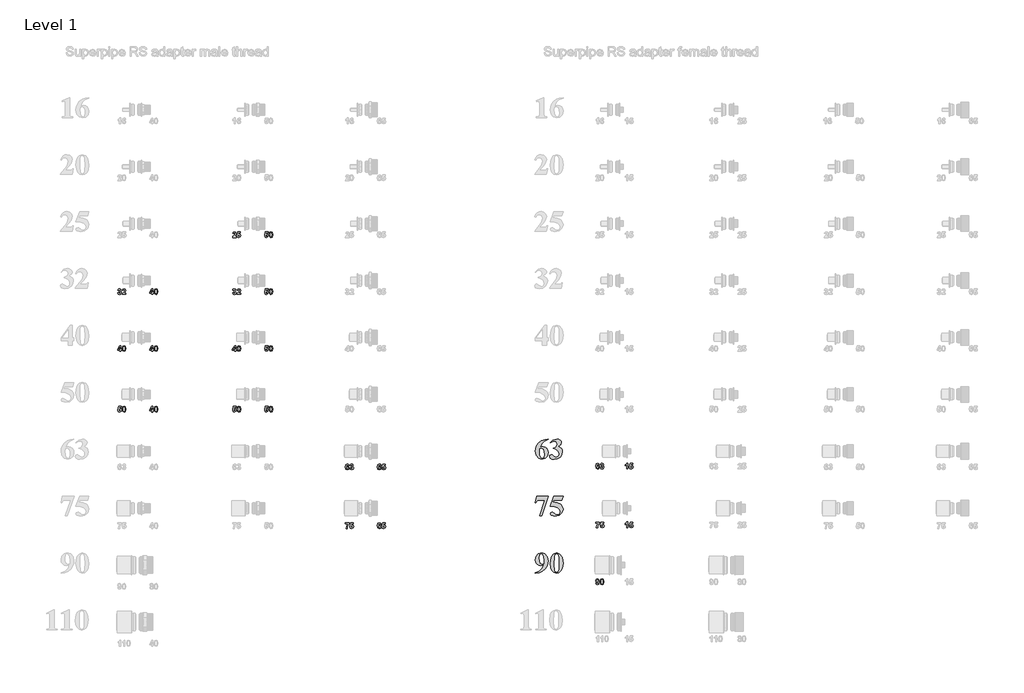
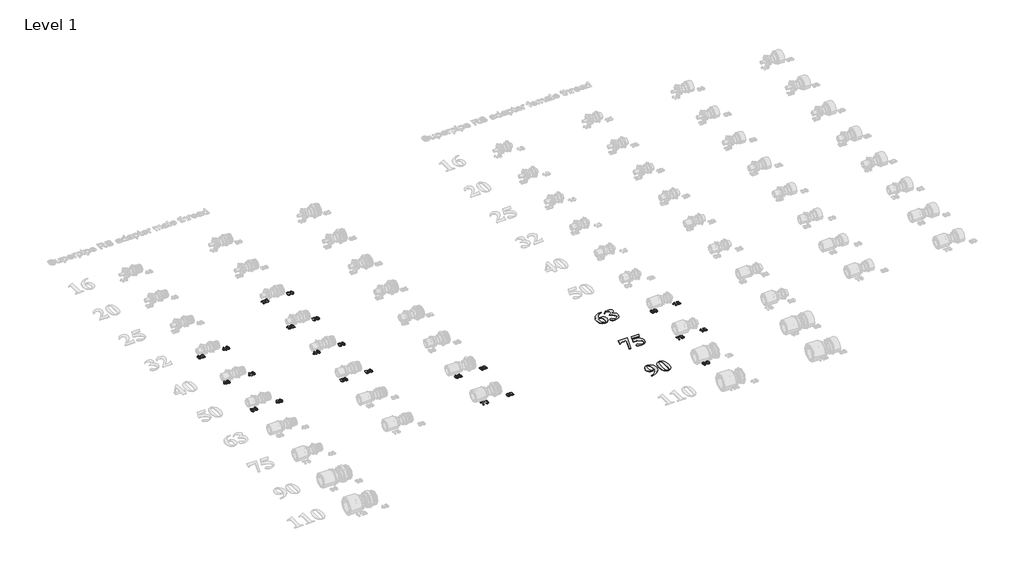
# One storey, part 33 of 57: 26 proxies.
"""IFC4 building model written with IfcOpenShell, lengths in millimetres."""

from ifc_helpers import new_model, si_unit, frame, origin, place, context, project, spatial, polyline, outline, extrude, element, save

model = new_model("IFC4")

# Units and contexts
model_context = context("Model", 3, world=origin())
ifc_project = project(units=[si_unit("LENGTHUNIT", "METRE", prefix="MILLI")], contexts=[model_context])

# Site, building, storey
site = spatial("IfcSite", under=ifc_project)
building = spatial("IfcBuilding", under=site)
storey = spatial("IfcBuildingStorey", under=building, Name="Level 1", Elevation=27.3876384)

# Proxies
placement = place(None, origin())
element("IfcBuildingElementProxy", 1, Name="100mm Arial", ObjectType="100mm Arial", at=placement, inside=storey, context=model_context, shape_type="SweptSolid", body=[
    extrude(outline(polyline([(31351.4898622, 16910.8916255), (31351.4898622, 16909.1466992), (31329.4738, 16900.0676296), (31316.3595883, 16886.5717153), (31308.9027549, 16866.91403), (31314.4647074, 16869.4496261), (31324.4435047, 16870.7583208), (31335.0664251, 16868.7032611), (31343.760384, 16862.5380821), (31349.5574926, 16852.8285215), (31351.4898622, 16840.1403172), (31347.2502366, 16821.8458556), (31335.2266039, 16808.9906565), (31318.5816429, 16804.4511217), (31300.7779418, 16809.6313716), (31288.0181683, 16824.804051), (31283.4377368, 16846.520204), (31285.5405093, 16863.1481247), (31291.8488268, 16878.5150634), (31302.0252915, 16891.7519652), (31315.7325054, 16901.989775), (31332.4081389, 16908.5843694), (31351.4898622, 16910.8916255)]), holes=[polyline([(31307.8667049, 16861.2975485), (31306.1217786, 16846.1112369), (31308.3165687, 16826.0582168), (31314.3283851, 16812.4668768), (31320.7900652, 16809.6859006), (31327.5652869, 16813.7074104), (31330.5507467, 16830.0524621), (31329.2284197, 16847.5698862), (31325.2614389, 16858.6801591), (31316.0733113, 16863.7786156), (31307.8667049, 16861.2975485)])]), frame((0.0, 0.0, 27.3876384), z_axis=(0.0, 0.0, 1.0), x_axis=(1.0, 0.0, 0.0)), (0.0, 0.0, 1.0), 2.0),
    extrude(outline(polyline([(31377.6637566, 16862.0336893), (31377.6637566, 16863.7786156), (31390.0963564, 16868.5907951), (31396.0809083, 16875.379649), (31398.6028721, 16884.6359377), (31393.8997504, 16895.773475), (31382.1896591, 16900.4220677), (31372.1290685, 16897.9887135), (31363.7043462, 16890.6886508), (31361.9594199, 16891.6974363), (31376.3686941, 16906.0794459), (31395.9582182, 16910.8916255), (31406.0085846, 16909.4397923), (31414.1299896, 16905.0842927), (31419.4976828, 16898.7861993), (31421.2869139, 16891.506585), (31417.2790363, 16881.7322713), (31404.7101141, 16873.4575036), (31420.9324757, 16862.1700117), (31425.1243885, 16854.6109365), (31426.5216927, 16845.3478316), (31423.5294168, 16829.585558), (31414.552589, 16816.3793288), (31400.5522819, 16807.4331734), (31382.4895683, 16804.4511217), (31370.8885349, 16805.7325519), (31362.9136765, 16809.5768427), (31358.4695674, 16818.8740281), (31361.0460601, 16825.9491589), (31367.0033475, 16828.8800898), (31371.8564237, 16827.7895108), (31380.7173776, 16821.0551859), (31395.0039616, 16814.9206794), (31404.9282299, 16819.3784208), (31409.0724298, 16830.679545), (31407.0718991, 16840.6890148), (31401.0703069, 16849.8873665), (31391.2176079, 16857.3203435), (31377.6637566, 16862.0336893)])), frame((0.0, 0.0, 27.3876384), z_axis=(0.0, 0.0, 1.0), x_axis=(1.0, 0.0, 0.0)), (0.0, 0.0, 1.0), 2.0),
])
element("IfcBuildingElementProxy", 2, Name="100mm Arial", ObjectType="100mm Arial", at=placement, inside=storey, context=model_context, shape_type="SweptSolid", body=[
    extrude(outline(polyline([(31306.0945141, 16506.196048), (31334.5040953, 16588.2075837), (31312.8561035, 16588.2075837), (31293.7437077, 16584.8540535), (31286.3550354, 16575.9930996), (31283.4377368, 16575.9930996), (31290.935467, 16609.1466992), (31352.7167635, 16609.1466992), (31316.2914271, 16506.196048), (31306.0945141, 16506.196048)])), frame((0.0, 0.0, 27.3876384), z_axis=(0.0, 0.0, 1.0), x_axis=(1.0, 0.0, 0.0)), (0.0, 0.0, 1.0), 2.0),
    extrude(outline(polyline([(31381.1536091, 16609.1466992), (31430.0115453, 16609.1466992), (31423.0318402, 16588.2075837), (31378.7543355, 16588.2075837), (31375.5643921, 16579.4829522), (31399.8570378, 16575.7068227), (31417.8243258, 16566.3414761), (31426.9647404, 16555.0880647), (31430.0115453, 16541.394483), (31424.3132704, 16522.6910543), (31408.5953015, 16509.0042887), (31386.6065038, 16504.4511217), (31366.7852317, 16509.249669), (31361.9594199, 16516.9655149), (31364.4813837, 16522.8410089), (31370.3568777, 16525.3902372), (31376.4913842, 16524.0815425), (31387.1245288, 16517.1836307), (31395.3038708, 16512.4123479), (31400.729501, 16511.4308268), (31411.5807614, 16515.9976261), (31416.052135, 16526.9715766), (31412.6577081, 16539.0088416), (31402.4744273, 16548.5650395), (31387.1177127, 16554.8017878), (31368.2029843, 16556.8807039), (31361.9594199, 16556.7989104), (31381.1536091, 16609.1466992)])), frame((0.0, 0.0, 27.3876384), z_axis=(0.0, 0.0, 1.0), x_axis=(1.0, 0.0, 0.0)), (0.0, 0.0, 1.0), 2.0),
])
element("IfcBuildingElementProxy", 3, Name="100mm Arial", ObjectType="100mm Arial", at=placement, inside=storey, context=model_context, shape_type="SweptSolid", body=[
    extrude(outline(polyline([(31283.4377368, 16204.4511217), (31283.4377368, 16206.196048), (31305.6310181, 16214.8116215), (31320.0675567, 16228.9073542), (31327.5243901, 16248.2378658), (31319.1678291, 16245.3887284), (31311.9018469, 16244.5844264), (31300.7097806, 16246.6394861), (31291.5625498, 16252.8046651), (31285.4689401, 16262.5483062), (31283.4377368, 16275.3387523), (31287.7046269, 16293.524156), (31299.8918464, 16306.3384584), (31316.3459561, 16310.8916255), (31333.6588966, 16305.7659045), (31346.6504182, 16290.9203988), (31351.4898622, 16268.7407497), (31349.5268201, 16252.9614358), (31343.6376939, 16237.8501015), (31333.8599721, 16224.5348143), (31320.2311435, 16214.1436419), (31303.2556008, 16207.2559544), (31283.4377368, 16204.4511217)]), holes=[polyline([(31328.8058204, 16253.9634052), (31328.8058204, 16268.7952787), (31325.3159678, 16294.3420902), (31319.454106, 16303.9937137), (31314.0557403, 16305.6568466), (31307.5940601, 16302.4123743), (31304.3768523, 16285.4538719), (31305.7877888, 16267.834206), (31310.0205983, 16256.6898525), (31319.972131, 16251.5641316), (31328.8058204, 16253.9634052)])]), frame((0.0, 0.0, 27.3876384), z_axis=(0.0, 0.0, 1.0), x_axis=(1.0, 0.0, 0.0)), (0.0, 0.0, 1.0), 2.0),
    extrude(outline(polyline([(31430.0115453, 16257.6713736), (31425.5674362, 16229.0982056), (31418.4514086, 16215.7658781), (31408.3090246, 16207.5047427), (31395.9582182, 16204.4511217), (31382.1760269, 16208.213619), (31371.2838698, 16219.0103504), (31365.3129502, 16232.6425871), (31361.9594199, 16256.4717368), (31366.7852317, 16287.0624758), (31371.7746303, 16297.2491647), (31378.8361289, 16304.7434868), (31395.9582182, 16310.8916255), (31413.0939396, 16304.8252802), (31424.8040309, 16288.5074929), (31430.0115453, 16257.6713736)]), holes=[polyline([(31407.3275035, 16257.6713736), (31406.9730654, 16289.0255179), (31402.8561299, 16303.2303085), (31395.9036892, 16305.6568466), (31390.0690919, 16303.8301269), (31385.7613051, 16294.505677), (31384.6434617, 16247.8561632), (31386.3611236, 16218.6831767), (31390.0554597, 16211.498988), (31396.4217142, 16209.6859006), (31402.8561299, 16212.1124387), (31406.9730654, 16225.1721214), (31407.3275035, 16257.6713736)])]), frame((0.0, 0.0, 27.3876384), z_axis=(0.0, 0.0, 1.0), x_axis=(1.0, 0.0, 0.0)), (0.0, 0.0, 1.0), 2.0),
])
element("IfcBuildingElementProxy", 4, Name="30mm Arial", ObjectType="30mm Arial", at=placement, inside=storey, context=model_context, shape_type="SweptSolid", body=[
    extrude(outline(polyline([(29082.5952254, 17682.1341541), (29088.4252792, 17682.8097723), (29089.7385595, 17679.560732), (29092.3271641, 17678.437232), (29095.0827754, 17679.7239431), (29096.1986841, 17683.1893331), (29095.1776656, 17686.4611471), (29092.6839512, 17687.6681504), (29090.3686304, 17687.2354511), (29090.8772419, 17692.0406907), (29093.750517, 17692.9971839), (29094.7411707, 17695.6996567), (29094.0010271, 17697.9884083), (29092.0311067, 17698.84242), (29089.9549091, 17697.8517664), (29088.911117, 17694.9557175), (29083.0810633, 17695.8287074), (29084.6866054, 17700.4631446), (29087.6851356, 17703.1921867), (29091.9931506, 17704.1866359), (29098.5367786, 17701.4310246), (29100.5712244, 17696.3297276), (29096.2062753, 17689.8999678), (29100.4421737, 17687.3986622), (29102.0287378, 17682.7034953), (29099.2161924, 17675.9055616), (29092.2132958, 17673.0930161), (29085.6279161, 17675.5943217), (29082.5952254, 17682.1341541)])), frame((0.0, 0.0, 27.3876384), z_axis=(0.0, 0.0, 1.0), x_axis=(1.0, 0.0, 0.0)), (0.0, 0.0, 1.0), 2.0),
    extrude(outline(polyline([(29125.3489527, 17679.4089076), (29125.3489527, 17673.5788539), (29105.9154403, 17673.5788539), (29107.7752882, 17679.298835), (29113.8862169, 17686.4687383), (29118.395399, 17691.3574813), (29119.518899, 17694.864623), (29118.5737926, 17697.8138103), (29115.96621, 17698.84242), (29113.3548318, 17697.8289927), (29112.2313318, 17694.4698797), (29106.4012781, 17695.0012648), (29109.528859, 17702.0497087), (29116.0952607, 17704.1866359), (29122.8818076, 17701.7916074), (29125.3489527, 17695.8362986), (29124.6733345, 17691.979961), (29122.5326116, 17688.146397), (29118.9078061, 17684.3204243), (29115.579058, 17681.003063), (29114.4859229, 17679.4089076), (29125.3489527, 17679.4089076)])), frame((0.0, 0.0, 27.3876384), z_axis=(0.0, 0.0, 1.0), x_axis=(1.0, 0.0, 0.0)), (0.0, 0.0, 1.0), 2.0),
])
element("IfcBuildingElementProxy", 5, Name="30mm Arial", ObjectType="30mm Arial", at=placement, inside=storey, context=model_context, shape_type="SweptSolid", body=[
    extrude(outline(polyline([(29262.0336573, 17673.5788539), (29262.0336573, 17679.8947455), (29250.3735498, 17679.8947455), (29250.3735498, 17684.7303499), (29262.8079613, 17703.7007981), (29267.863711, 17703.7007981), (29267.863711, 17684.7531236), (29271.7504134, 17684.7531236), (29271.7504134, 17679.8947455), (29267.863711, 17679.8947455), (29267.863711, 17673.5788539), (29262.0336573, 17673.5788539)]), holes=[polyline([(29262.0336573, 17684.7531236), (29262.0336573, 17694.6976162), (29255.5203941, 17684.7531236), (29262.0336573, 17684.7531236)])]), frame((0.0, 0.0, 27.3876384), z_axis=(0.0, 0.0, 1.0), x_axis=(1.0, 0.0, 0.0)), (0.0, 0.0, 1.0), 2.0),
    extrude(outline(polyline([(29284.3821965, 17704.1866359), (29291.1763346, 17701.0286902), (29294.0989527, 17688.6322348), (29291.1611522, 17676.2054146), (29284.3821965, 17673.0930161), (29277.3413439, 17676.5090632), (29274.6654403, 17688.6929645), (29277.6032408, 17701.0742375), (29284.3821965, 17704.1866359)]), holes=[polyline([(29284.3821965, 17698.84242), (29282.4388453, 17698.2009623), (29281.1179737, 17695.8970283), (29280.495494, 17688.6322348), (29281.0496528, 17681.6141558), (29282.4502321, 17679.0710985), (29284.3821965, 17678.437232), (29286.3255477, 17679.0786898), (29287.6464193, 17681.3826237), (29288.268899, 17688.6322348), (29287.7147402, 17695.6465182), (29286.3141609, 17698.2009623), (29284.3821965, 17698.84242)])]), frame((0.0, 0.0, 27.3876384), z_axis=(0.0, 0.0, 1.0), x_axis=(1.0, 0.0, 0.0)), (0.0, 0.0, 1.0), 2.0),
])
element("IfcBuildingElementProxy", 6, Name="30mm Arial", ObjectType="30mm Arial", at=placement, inside=storey, context=model_context, shape_type="SweptSolid", body=[
    extrude(outline(polyline([(29093.2836573, 17373.5788539), (29093.2836573, 17379.8947455), (29081.6235498, 17379.8947455), (29081.6235498, 17384.7303499), (29094.0579613, 17403.7007981), (29099.113711, 17403.7007981), (29099.113711, 17384.7531236), (29103.0004134, 17384.7531236), (29103.0004134, 17379.8947455), (29099.113711, 17379.8947455), (29099.113711, 17373.5788539), (29093.2836573, 17373.5788539)]), holes=[polyline([(29093.2836573, 17384.7531236), (29093.2836573, 17394.6976162), (29086.7703941, 17384.7531236), (29093.2836573, 17384.7531236)])]), frame((0.0, 0.0, 27.3876384), z_axis=(0.0, 0.0, 1.0), x_axis=(1.0, 0.0, 0.0)), (0.0, 0.0, 1.0), 2.0),
    extrude(outline(polyline([(29115.6321965, 17404.1866359), (29122.4263346, 17401.0286902), (29125.3489527, 17388.6322348), (29122.4111522, 17376.2054146), (29115.6321965, 17373.0930161), (29108.5913439, 17376.5090632), (29105.9154403, 17388.6929645), (29108.8532408, 17401.0742375), (29115.6321965, 17404.1866359)]), holes=[polyline([(29115.6321965, 17398.84242), (29113.6888453, 17398.2009623), (29112.3679737, 17395.8970283), (29111.745494, 17388.6322348), (29112.2996528, 17381.6141558), (29113.7002321, 17379.0710985), (29115.6321965, 17378.437232), (29117.5755477, 17379.0786898), (29118.8964193, 17381.3826237), (29119.518899, 17388.6322348), (29118.9647402, 17395.6465182), (29117.5641609, 17398.2009623), (29115.6321965, 17398.84242)])]), frame((0.0, 0.0, 27.3876384), z_axis=(0.0, 0.0, 1.0), x_axis=(1.0, 0.0, 0.0)), (0.0, 0.0, 1.0), 2.0),
])
element("IfcBuildingElementProxy", 7, Name="30mm Arial", ObjectType="30mm Arial", at=placement, inside=storey, context=model_context, shape_type="SweptSolid", body=[
    extrude(outline(polyline([(29262.0336573, 17373.5788539), (29262.0336573, 17379.8947455), (29250.3735498, 17379.8947455), (29250.3735498, 17384.7303499), (29262.8079613, 17403.7007981), (29267.863711, 17403.7007981), (29267.863711, 17384.7531236), (29271.7504134, 17384.7531236), (29271.7504134, 17379.8947455), (29267.863711, 17379.8947455), (29267.863711, 17373.5788539), (29262.0336573, 17373.5788539)]), holes=[polyline([(29262.0336573, 17384.7531236), (29262.0336573, 17394.6976162), (29255.5203941, 17384.7531236), (29262.0336573, 17384.7531236)])]), frame((0.0, 0.0, 27.3876384), z_axis=(0.0, 0.0, 1.0), x_axis=(1.0, 0.0, 0.0)), (0.0, 0.0, 1.0), 2.0),
    extrude(outline(polyline([(29284.3821965, 17404.1866359), (29291.1763346, 17401.0286902), (29294.0989527, 17388.6322348), (29291.1611522, 17376.2054146), (29284.3821965, 17373.0930161), (29277.3413439, 17376.5090632), (29274.6654403, 17388.6929645), (29277.6032408, 17401.0742375), (29284.3821965, 17404.1866359)]), holes=[polyline([(29284.3821965, 17398.84242), (29282.4388453, 17398.2009623), (29281.1179737, 17395.8970283), (29280.495494, 17388.6322348), (29281.0496528, 17381.6141558), (29282.4502321, 17379.0710985), (29284.3821965, 17378.437232), (29286.3255477, 17379.0786898), (29287.6464193, 17381.3826237), (29288.268899, 17388.6322348), (29287.7147402, 17395.6465182), (29286.3141609, 17398.2009623), (29284.3821965, 17398.84242)])]), frame((0.0, 0.0, 27.3876384), z_axis=(0.0, 0.0, 1.0), x_axis=(1.0, 0.0, 0.0)), (0.0, 0.0, 1.0), 2.0),
])
element("IfcBuildingElementProxy", 8, Name="30mm Arial", ObjectType="30mm Arial", at=placement, inside=storey, context=model_context, shape_type="SweptSolid", body=[
    extrude(outline(polyline([(29082.5952254, 17062.1948838), (29087.9394414, 17062.8097723), (29089.4273196, 17059.6138705), (29092.2816168, 17058.437232), (29095.4054021, 17059.685987), (29096.6845219, 17063.4474344), (29095.4964967, 17066.9773498), (29092.4030762, 17068.1539882), (29088.136813, 17065.7247992), (29083.0810633, 17066.4763295), (29086.4819279, 17083.7007981), (29101.0570622, 17083.7007981), (29101.0570622, 17077.8707444), (29091.1960729, 17077.8707444), (29090.0194345, 17072.3063832), (29093.7770863, 17073.4982041), (29099.9715184, 17070.7387972), (29102.5145756, 17063.5764851), (29100.3966264, 17057.0252659), (29092.3727114, 17053.0930161), (29085.6886459, 17055.5601612), (29082.5952254, 17062.1948838)])), frame((0.0, 0.0, 27.3876384), z_axis=(0.0, 0.0, 1.0), x_axis=(1.0, 0.0, 0.0)), (0.0, 0.0, 1.0), 2.0),
    extrude(outline(polyline([(29115.6321965, 17084.1866359), (29122.4263346, 17081.0286902), (29125.3489527, 17068.6322348), (29122.4111522, 17056.2054146), (29115.6321965, 17053.0930161), (29108.5913439, 17056.5090632), (29105.9154403, 17068.6929645), (29108.8532408, 17081.0742375), (29115.6321965, 17084.1866359)]), holes=[polyline([(29115.6321965, 17078.84242), (29113.6888453, 17078.2009623), (29112.3679737, 17075.8970283), (29111.745494, 17068.6322348), (29112.2996528, 17061.6141558), (29113.7002321, 17059.0710985), (29115.6321965, 17058.437232), (29117.5755477, 17059.0786898), (29118.8964193, 17061.3826237), (29119.518899, 17068.6322348), (29118.9647402, 17075.6465182), (29117.5641609, 17078.2009623), (29115.6321965, 17078.84242)])]), frame((0.0, 0.0, 27.3876384), z_axis=(0.0, 0.0, 1.0), x_axis=(1.0, 0.0, 0.0)), (0.0, 0.0, 1.0), 2.0),
])
element("IfcBuildingElementProxy", 9, Name="30mm Arial", ObjectType="30mm Arial", at=placement, inside=storey, context=model_context, shape_type="SweptSolid", body=[
    extrude(outline(polyline([(29262.0336573, 17053.5788539), (29262.0336573, 17059.8947455), (29250.3735498, 17059.8947455), (29250.3735498, 17064.7303499), (29262.8079613, 17083.7007981), (29267.863711, 17083.7007981), (29267.863711, 17064.7531236), (29271.7504134, 17064.7531236), (29271.7504134, 17059.8947455), (29267.863711, 17059.8947455), (29267.863711, 17053.5788539), (29262.0336573, 17053.5788539)]), holes=[polyline([(29262.0336573, 17064.7531236), (29262.0336573, 17074.6976162), (29255.5203941, 17064.7531236), (29262.0336573, 17064.7531236)])]), frame((0.0, 0.0, 27.3876384), z_axis=(0.0, 0.0, 1.0), x_axis=(1.0, 0.0, 0.0)), (0.0, 0.0, 1.0), 2.0),
    extrude(outline(polyline([(29284.3821965, 17084.1866359), (29291.1763346, 17081.0286902), (29294.0989527, 17068.6322348), (29291.1611522, 17056.2054146), (29284.3821965, 17053.0930161), (29277.3413439, 17056.5090632), (29274.6654403, 17068.6929645), (29277.6032408, 17081.0742375), (29284.3821965, 17084.1866359)]), holes=[polyline([(29284.3821965, 17078.84242), (29282.4388453, 17078.2009623), (29281.1179737, 17075.8970283), (29280.495494, 17068.6322348), (29281.0496528, 17061.6141558), (29282.4502321, 17059.0710985), (29284.3821965, 17058.437232), (29286.3255477, 17059.0786898), (29287.6464193, 17061.3826237), (29288.268899, 17068.6322348), (29287.7147402, 17075.6465182), (29286.3141609, 17078.2009623), (29284.3821965, 17078.84242)])]), frame((0.0, 0.0, 27.3876384), z_axis=(0.0, 0.0, 1.0), x_axis=(1.0, 0.0, 0.0)), (0.0, 0.0, 1.0), 2.0),
])
element("IfcBuildingElementProxy", 10, Name="30mm Arial", ObjectType="30mm Arial", at=placement, inside=storey, context=model_context, shape_type="SweptSolid", body=[
    extrude(outline(polyline([(29707.0287378, 17979.4089076), (29707.0287378, 17973.5788539), (29687.5952254, 17973.5788539), (29689.4550733, 17979.298835), (29695.566002, 17986.4687383), (29700.0751842, 17991.3574813), (29701.1986841, 17994.864623), (29700.2535777, 17997.8138103), (29697.6459951, 17998.84242), (29695.0346169, 17997.8289927), (29693.911117, 17994.4698797), (29688.0810633, 17995.0012648), (29691.2086442, 18002.0497087), (29697.7750458, 18004.1866359), (29704.5615927, 18001.7916074), (29707.0287378, 17995.8362986), (29706.3531196, 17991.979961), (29704.2123968, 17988.146397), (29700.5875912, 17984.3204243), (29697.2588431, 17981.003063), (29696.1657081, 17979.4089076), (29707.0287378, 17979.4089076)])), frame((0.0, 0.0, 27.3876384), z_axis=(0.0, 0.0, 1.0), x_axis=(1.0, 0.0, 0.0)), (0.0, 0.0, 1.0), 2.0),
    extrude(outline(polyline([(29710.9154403, 17982.1948838), (29716.2596562, 17982.8097723), (29717.7475345, 17979.6138705), (29720.6018316, 17978.437232), (29723.7256169, 17979.685987), (29725.0047368, 17983.4474344), (29723.8167115, 17986.9773498), (29720.7232911, 17988.1539882), (29716.4570278, 17985.7247992), (29711.4012781, 17986.4763295), (29714.8021428, 18003.7007981), (29729.3772771, 18003.7007981), (29729.3772771, 17997.8707444), (29719.5162878, 17997.8707444), (29718.3396493, 17992.3063832), (29722.0973011, 17993.4982041), (29728.2917332, 17990.7387972), (29730.8347905, 17983.5764851), (29728.7168413, 17977.0252659), (29720.6929262, 17973.0930161), (29714.0088607, 17975.5601612), (29710.9154403, 17982.1948838)])), frame((0.0, 0.0, 27.3876384), z_axis=(0.0, 0.0, 1.0), x_axis=(1.0, 0.0, 0.0)), (0.0, 0.0, 1.0), 2.0),
])
element("IfcBuildingElementProxy", 11, Name="30mm Arial", ObjectType="30mm Arial", at=placement, inside=storey, context=model_context, shape_type="SweptSolid", body=[
    extrude(outline(polyline([(29856.3452254, 17982.1948838), (29861.6894414, 17982.8097723), (29863.1773196, 17979.6138705), (29866.0316168, 17978.437232), (29869.1554021, 17979.685987), (29870.4345219, 17983.4474344), (29869.2464967, 17986.9773498), (29866.1530762, 17988.1539882), (29861.886813, 17985.7247992), (29856.8310633, 17986.4763295), (29860.2319279, 18003.7007981), (29874.8070622, 18003.7007981), (29874.8070622, 17997.8707444), (29864.9460729, 17997.8707444), (29863.7694345, 17992.3063832), (29867.5270863, 17993.4982041), (29873.7215184, 17990.7387972), (29876.2645756, 17983.5764851), (29874.1466264, 17977.0252659), (29866.1227114, 17973.0930161), (29859.4386459, 17975.5601612), (29856.3452254, 17982.1948838)])), frame((0.0, 0.0, 27.3876384), z_axis=(0.0, 0.0, 1.0), x_axis=(1.0, 0.0, 0.0)), (0.0, 0.0, 1.0), 2.0),
    extrude(outline(polyline([(29889.3821965, 18004.1866359), (29896.1763346, 18001.0286902), (29899.0989527, 17988.6322348), (29896.1611522, 17976.2054146), (29889.3821965, 17973.0930161), (29882.3413439, 17976.5090632), (29879.6654403, 17988.6929645), (29882.6032408, 18001.0742375), (29889.3821965, 18004.1866359)]), holes=[polyline([(29889.3821965, 17998.84242), (29887.4388453, 17998.2009623), (29886.1179737, 17995.8970283), (29885.495494, 17988.6322348), (29886.0496528, 17981.6141558), (29887.4502321, 17979.0710985), (29889.3821965, 17978.437232), (29891.3255477, 17979.0786898), (29892.6464193, 17981.3826237), (29893.268899, 17988.6322348), (29892.7147402, 17995.6465182), (29891.3141609, 17998.2009623), (29889.3821965, 17998.84242)])]), frame((0.0, 0.0, 27.3876384), z_axis=(0.0, 0.0, 1.0), x_axis=(1.0, 0.0, 0.0)), (0.0, 0.0, 1.0), 2.0),
])
element("IfcBuildingElementProxy", 12, Name="30mm Arial", ObjectType="30mm Arial", at=placement, inside=storey, context=model_context, shape_type="SweptSolid", body=[
    extrude(outline(polyline([(29687.5952254, 17682.1341541), (29693.4252792, 17682.8097723), (29694.7385595, 17679.560732), (29697.3271641, 17678.437232), (29700.0827754, 17679.7239431), (29701.1986841, 17683.1893331), (29700.1776656, 17686.4611471), (29697.6839512, 17687.6681504), (29695.3686304, 17687.2354511), (29695.8772419, 17692.0406907), (29698.750517, 17692.9971839), (29699.7411707, 17695.6996567), (29699.0010271, 17697.9884083), (29697.0311067, 17698.84242), (29694.9549091, 17697.8517664), (29693.911117, 17694.9557175), (29688.0810633, 17695.8287074), (29689.6866054, 17700.4631446), (29692.6851356, 17703.1921867), (29696.9931506, 17704.1866359), (29703.5367786, 17701.4310246), (29705.5712244, 17696.3297276), (29701.2062753, 17689.8999678), (29705.4421737, 17687.3986622), (29707.0287378, 17682.7034953), (29704.2161924, 17675.9055616), (29697.2132958, 17673.0930161), (29690.6279161, 17675.5943217), (29687.5952254, 17682.1341541)])), frame((0.0, 0.0, 27.3876384), z_axis=(0.0, 0.0, 1.0), x_axis=(1.0, 0.0, 0.0)), (0.0, 0.0, 1.0), 2.0),
    extrude(outline(polyline([(29730.3489527, 17679.4089076), (29730.3489527, 17673.5788539), (29710.9154403, 17673.5788539), (29712.7752882, 17679.298835), (29718.8862169, 17686.4687383), (29723.395399, 17691.3574813), (29724.518899, 17694.864623), (29723.5737926, 17697.8138103), (29720.96621, 17698.84242), (29718.3548318, 17697.8289927), (29717.2313318, 17694.4698797), (29711.4012781, 17695.0012648), (29714.528859, 17702.0497087), (29721.0952607, 17704.1866359), (29727.8818076, 17701.7916074), (29730.3489527, 17695.8362986), (29729.6733345, 17691.979961), (29727.5326116, 17688.146397), (29723.9078061, 17684.3204243), (29720.579058, 17681.003063), (29719.4859229, 17679.4089076), (29730.3489527, 17679.4089076)])), frame((0.0, 0.0, 27.3876384), z_axis=(0.0, 0.0, 1.0), x_axis=(1.0, 0.0, 0.0)), (0.0, 0.0, 1.0), 2.0),
])
element("IfcBuildingElementProxy", 13, Name="30mm Arial", ObjectType="30mm Arial", at=placement, inside=storey, context=model_context, shape_type="SweptSolid", body=[
    extrude(outline(polyline([(29856.3452254, 17682.1948838), (29861.6894414, 17682.8097723), (29863.1773196, 17679.6138705), (29866.0316168, 17678.437232), (29869.1554021, 17679.685987), (29870.4345219, 17683.4474344), (29869.2464967, 17686.9773498), (29866.1530762, 17688.1539882), (29861.886813, 17685.7247992), (29856.8310633, 17686.4763295), (29860.2319279, 17703.7007981), (29874.8070622, 17703.7007981), (29874.8070622, 17697.8707444), (29864.9460729, 17697.8707444), (29863.7694345, 17692.3063832), (29867.5270863, 17693.4982041), (29873.7215184, 17690.7387972), (29876.2645756, 17683.5764851), (29874.1466264, 17677.0252659), (29866.1227114, 17673.0930161), (29859.4386459, 17675.5601612), (29856.3452254, 17682.1948838)])), frame((0.0, 0.0, 27.3876384), z_axis=(0.0, 0.0, 1.0), x_axis=(1.0, 0.0, 0.0)), (0.0, 0.0, 1.0), 2.0),
    extrude(outline(polyline([(29889.3821965, 17704.1866359), (29896.1763346, 17701.0286902), (29899.0989527, 17688.6322348), (29896.1611522, 17676.2054146), (29889.3821965, 17673.0930161), (29882.3413439, 17676.5090632), (29879.6654403, 17688.6929645), (29882.6032408, 17701.0742375), (29889.3821965, 17704.1866359)]), holes=[polyline([(29889.3821965, 17698.84242), (29887.4388453, 17698.2009623), (29886.1179737, 17695.8970283), (29885.495494, 17688.6322348), (29886.0496528, 17681.6141558), (29887.4502321, 17679.0710985), (29889.3821965, 17678.437232), (29891.3255477, 17679.0786898), (29892.6464193, 17681.3826237), (29893.268899, 17688.6322348), (29892.7147402, 17695.6465182), (29891.3141609, 17698.2009623), (29889.3821965, 17698.84242)])]), frame((0.0, 0.0, 27.3876384), z_axis=(0.0, 0.0, 1.0), x_axis=(1.0, 0.0, 0.0)), (0.0, 0.0, 1.0), 2.0),
])
element("IfcBuildingElementProxy", 14, Name="30mm Arial", ObjectType="30mm Arial", at=placement, inside=storey, context=model_context, shape_type="SweptSolid", body=[
    extrude(outline(polyline([(29698.2836573, 17373.5788539), (29698.2836573, 17379.8947455), (29686.6235498, 17379.8947455), (29686.6235498, 17384.7303499), (29699.0579613, 17403.7007981), (29704.113711, 17403.7007981), (29704.113711, 17384.7531236), (29708.0004134, 17384.7531236), (29708.0004134, 17379.8947455), (29704.113711, 17379.8947455), (29704.113711, 17373.5788539), (29698.2836573, 17373.5788539)]), holes=[polyline([(29698.2836573, 17384.7531236), (29698.2836573, 17394.6976162), (29691.7703941, 17384.7531236), (29698.2836573, 17384.7531236)])]), frame((0.0, 0.0, 27.3876384), z_axis=(0.0, 0.0, 1.0), x_axis=(1.0, 0.0, 0.0)), (0.0, 0.0, 1.0), 2.0),
    extrude(outline(polyline([(29720.6321965, 17404.1866359), (29727.4263346, 17401.0286902), (29730.3489527, 17388.6322348), (29727.4111522, 17376.2054146), (29720.6321965, 17373.0930161), (29713.5913439, 17376.5090632), (29710.9154403, 17388.6929645), (29713.8532408, 17401.0742375), (29720.6321965, 17404.1866359)]), holes=[polyline([(29720.6321965, 17398.84242), (29718.6888453, 17398.2009623), (29717.3679737, 17395.8970283), (29716.745494, 17388.6322348), (29717.2996528, 17381.6141558), (29718.7002321, 17379.0710985), (29720.6321965, 17378.437232), (29722.5755477, 17379.0786898), (29723.8964193, 17381.3826237), (29724.518899, 17388.6322348), (29723.9647402, 17395.6465182), (29722.5641609, 17398.2009623), (29720.6321965, 17398.84242)])]), frame((0.0, 0.0, 27.3876384), z_axis=(0.0, 0.0, 1.0), x_axis=(1.0, 0.0, 0.0)), (0.0, 0.0, 1.0), 2.0),
])
element("IfcBuildingElementProxy", 15, Name="30mm Arial", ObjectType="30mm Arial", at=placement, inside=storey, context=model_context, shape_type="SweptSolid", body=[
    extrude(outline(polyline([(29856.3452254, 17382.1948838), (29861.6894414, 17382.8097723), (29863.1773196, 17379.6138705), (29866.0316168, 17378.437232), (29869.1554021, 17379.685987), (29870.4345219, 17383.4474344), (29869.2464967, 17386.9773498), (29866.1530762, 17388.1539882), (29861.886813, 17385.7247992), (29856.8310633, 17386.4763295), (29860.2319279, 17403.7007981), (29874.8070622, 17403.7007981), (29874.8070622, 17397.8707444), (29864.9460729, 17397.8707444), (29863.7694345, 17392.3063832), (29867.5270863, 17393.4982041), (29873.7215184, 17390.7387972), (29876.2645756, 17383.5764851), (29874.1466264, 17377.0252659), (29866.1227114, 17373.0930161), (29859.4386459, 17375.5601612), (29856.3452254, 17382.1948838)])), frame((0.0, 0.0, 27.3876384), z_axis=(0.0, 0.0, 1.0), x_axis=(1.0, 0.0, 0.0)), (0.0, 0.0, 1.0), 2.0),
    extrude(outline(polyline([(29889.3821965, 17404.1866359), (29896.1763346, 17401.0286902), (29899.0989527, 17388.6322348), (29896.1611522, 17376.2054146), (29889.3821965, 17373.0930161), (29882.3413439, 17376.5090632), (29879.6654403, 17388.6929645), (29882.6032408, 17401.0742375), (29889.3821965, 17404.1866359)]), holes=[polyline([(29889.3821965, 17398.84242), (29887.4388453, 17398.2009623), (29886.1179737, 17395.8970283), (29885.495494, 17388.6322348), (29886.0496528, 17381.6141558), (29887.4502321, 17379.0710985), (29889.3821965, 17378.437232), (29891.3255477, 17379.0786898), (29892.6464193, 17381.3826237), (29893.268899, 17388.6322348), (29892.7147402, 17395.6465182), (29891.3141609, 17398.2009623), (29889.3821965, 17398.84242)])]), frame((0.0, 0.0, 27.3876384), z_axis=(0.0, 0.0, 1.0), x_axis=(1.0, 0.0, 0.0)), (0.0, 0.0, 1.0), 2.0),
])
element("IfcBuildingElementProxy", 16, Name="30mm Arial", ObjectType="30mm Arial", at=placement, inside=storey, context=model_context, shape_type="SweptSolid", body=[
    extrude(outline(polyline([(29687.5952254, 17062.1948838), (29692.9394414, 17062.8097723), (29694.4273196, 17059.6138705), (29697.2816168, 17058.437232), (29700.4054021, 17059.685987), (29701.6845219, 17063.4474344), (29700.4964967, 17066.9773498), (29697.4030762, 17068.1539882), (29693.136813, 17065.7247992), (29688.0810633, 17066.4763295), (29691.4819279, 17083.7007981), (29706.0570622, 17083.7007981), (29706.0570622, 17077.8707444), (29696.1960729, 17077.8707444), (29695.0194345, 17072.3063832), (29698.7770863, 17073.4982041), (29704.9715184, 17070.7387972), (29707.5145756, 17063.5764851), (29705.3966264, 17057.0252659), (29697.3727114, 17053.0930161), (29690.6886459, 17055.5601612), (29687.5952254, 17062.1948838)])), frame((0.0, 0.0, 27.3876384), z_axis=(0.0, 0.0, 1.0), x_axis=(1.0, 0.0, 0.0)), (0.0, 0.0, 1.0), 2.0),
    extrude(outline(polyline([(29720.6321965, 17084.1866359), (29727.4263346, 17081.0286902), (29730.3489527, 17068.6322348), (29727.4111522, 17056.2054146), (29720.6321965, 17053.0930161), (29713.5913439, 17056.5090632), (29710.9154403, 17068.6929645), (29713.8532408, 17081.0742375), (29720.6321965, 17084.1866359)]), holes=[polyline([(29720.6321965, 17078.84242), (29718.6888453, 17078.2009623), (29717.3679737, 17075.8970283), (29716.745494, 17068.6322348), (29717.2996528, 17061.6141558), (29718.7002321, 17059.0710985), (29720.6321965, 17058.437232), (29722.5755477, 17059.0786898), (29723.8964193, 17061.3826237), (29724.518899, 17068.6322348), (29723.9647402, 17075.6465182), (29722.5641609, 17078.2009623), (29720.6321965, 17078.84242)])]), frame((0.0, 0.0, 27.3876384), z_axis=(0.0, 0.0, 1.0), x_axis=(1.0, 0.0, 0.0)), (0.0, 0.0, 1.0), 2.0),
])
element("IfcBuildingElementProxy", 17, Name="30mm Arial", ObjectType="30mm Arial", at=placement, inside=storey, context=model_context, shape_type="SweptSolid", body=[
    extrude(outline(polyline([(29856.3452254, 17062.1948838), (29861.6894414, 17062.8097723), (29863.1773196, 17059.6138705), (29866.0316168, 17058.437232), (29869.1554021, 17059.685987), (29870.4345219, 17063.4474344), (29869.2464967, 17066.9773498), (29866.1530762, 17068.1539882), (29861.886813, 17065.7247992), (29856.8310633, 17066.4763295), (29860.2319279, 17083.7007981), (29874.8070622, 17083.7007981), (29874.8070622, 17077.8707444), (29864.9460729, 17077.8707444), (29863.7694345, 17072.3063832), (29867.5270863, 17073.4982041), (29873.7215184, 17070.7387972), (29876.2645756, 17063.5764851), (29874.1466264, 17057.0252659), (29866.1227114, 17053.0930161), (29859.4386459, 17055.5601612), (29856.3452254, 17062.1948838)])), frame((0.0, 0.0, 27.3876384), z_axis=(0.0, 0.0, 1.0), x_axis=(1.0, 0.0, 0.0)), (0.0, 0.0, 1.0), 2.0),
    extrude(outline(polyline([(29889.3821965, 17084.1866359), (29896.1763346, 17081.0286902), (29899.0989527, 17068.6322348), (29896.1611522, 17056.2054146), (29889.3821965, 17053.0930161), (29882.3413439, 17056.5090632), (29879.6654403, 17068.6929645), (29882.6032408, 17081.0742375), (29889.3821965, 17084.1866359)]), holes=[polyline([(29889.3821965, 17078.84242), (29887.4388453, 17078.2009623), (29886.1179737, 17075.8970283), (29885.495494, 17068.6322348), (29886.0496528, 17061.6141558), (29887.4502321, 17059.0710985), (29889.3821965, 17058.437232), (29891.3255477, 17059.0786898), (29892.6464193, 17061.3826237), (29893.268899, 17068.6322348), (29892.7147402, 17075.6465182), (29891.3141609, 17078.2009623), (29889.3821965, 17078.84242)])]), frame((0.0, 0.0, 27.3876384), z_axis=(0.0, 0.0, 1.0), x_axis=(1.0, 0.0, 0.0)), (0.0, 0.0, 1.0), 2.0),
])
element("IfcBuildingElementProxy", 18, Name="30mm Arial", ObjectType="30mm Arial", at=placement, inside=storey, context=model_context, shape_type="SweptSolid", body=[
    extrude(outline(polyline([(30301.5429, 16772.0640351), (30295.7128463, 16771.4415554), (30294.680441, 16774.0111819), (30292.5093532, 16774.84242), (30289.5184142, 16773.2292867), (30287.9773974, 16766.4541266), (30293.3064309, 16769.0123663), (30299.4667025, 16766.2795286), (30302.0287378, 16759.2272892), (30299.4097684, 16751.8676055), (30292.67636, 16749.0930161), (30285.4343401, 16752.67607), (30282.5952254, 16764.4196808), (30285.5595952, 16776.4897138), (30293.2608836, 16780.1866359), (30298.764515, 16778.1066428), (30301.5429, 16772.0640351)]), holes=[polyline([(30288.4252792, 16759.3563398), (30289.685421, 16755.7163519), (30292.5624918, 16754.437232), (30295.1586876, 16755.4848198), (30296.1986841, 16758.9236405), (30295.0789798, 16762.5256724), (30292.2816168, 16763.6681504), (30289.5449835, 16762.5750153), (30288.4252792, 16759.3563398)])]), frame((0.0, 0.0, 27.3876384), z_axis=(0.0, 0.0, 1.0), x_axis=(1.0, 0.0, 0.0)), (0.0, 0.0, 1.0), 2.0),
    extrude(outline(polyline([(30305.9154403, 16758.1341541), (30311.745494, 16758.8097723), (30313.0587743, 16755.560732), (30315.6473789, 16754.437232), (30318.4029903, 16755.7239431), (30319.518899, 16759.1893331), (30318.4978804, 16762.4611471), (30316.0041661, 16763.6681504), (30313.6888453, 16763.2354511), (30314.1974567, 16768.0406907), (30317.0707319, 16768.9971839), (30318.0613855, 16771.6996567), (30317.321242, 16773.9884083), (30315.3513215, 16774.84242), (30313.275124, 16773.8517664), (30312.2313318, 16770.9557175), (30306.4012781, 16771.8287074), (30308.0068202, 16776.4631446), (30311.0053505, 16779.1921867), (30315.3133654, 16780.1866359), (30321.8569934, 16777.4310246), (30323.8914393, 16772.3297276), (30319.5264902, 16765.8999678), (30323.7623886, 16763.3986622), (30325.3489527, 16758.7034953), (30322.5364072, 16751.9055616), (30315.5335107, 16749.0930161), (30308.948131, 16751.5943217), (30305.9154403, 16758.1341541)])), frame((0.0, 0.0, 27.3876384), z_axis=(0.0, 0.0, 1.0), x_axis=(1.0, 0.0, 0.0)), (0.0, 0.0, 1.0), 2.0),
])
element("IfcBuildingElementProxy", 19, Name="30mm Arial", ObjectType="30mm Arial", at=placement, inside=storey, context=model_context, shape_type="SweptSolid", body=[
    extrude(outline(polyline([(30470.2929, 16772.0640351), (30464.4628463, 16771.4415554), (30463.430441, 16774.0111819), (30461.2593532, 16774.84242), (30458.2684142, 16773.2292867), (30456.7273974, 16766.4541266), (30462.0564309, 16769.0123663), (30468.2167025, 16766.2795286), (30470.7787378, 16759.2272892), (30468.1597684, 16751.8676055), (30461.42636, 16749.0930161), (30454.1843401, 16752.67607), (30451.3452254, 16764.4196808), (30454.3095952, 16776.4897138), (30462.0108836, 16780.1866359), (30467.514515, 16778.1066428), (30470.2929, 16772.0640351)]), holes=[polyline([(30457.1752792, 16759.3563398), (30458.435421, 16755.7163519), (30461.3124918, 16754.437232), (30463.9086876, 16755.4848198), (30464.9486841, 16758.9236405), (30463.8289798, 16762.5256724), (30461.0316168, 16763.6681504), (30458.2949835, 16762.5750153), (30457.1752792, 16759.3563398)])]), frame((0.0, 0.0, 27.3876384), z_axis=(0.0, 0.0, 1.0), x_axis=(1.0, 0.0, 0.0)), (0.0, 0.0, 1.0), 2.0),
    extrude(outline(polyline([(30474.6654403, 16758.1948838), (30480.0096562, 16758.8097723), (30481.4975345, 16755.6138705), (30484.3518316, 16754.437232), (30487.4756169, 16755.685987), (30488.7547368, 16759.4474344), (30487.5667115, 16762.9773498), (30484.4732911, 16764.1539882), (30480.2070278, 16761.7247992), (30475.1512781, 16762.4763295), (30478.5521428, 16779.7007981), (30493.1272771, 16779.7007981), (30493.1272771, 16773.8707444), (30483.2662878, 16773.8707444), (30482.0896493, 16768.3063832), (30485.8473011, 16769.4982041), (30492.0417332, 16766.7387972), (30494.5847905, 16759.5764851), (30492.4668413, 16753.0252659), (30484.4429262, 16749.0930161), (30477.7588607, 16751.5601612), (30474.6654403, 16758.1948838)])), frame((0.0, 0.0, 27.3876384), z_axis=(0.0, 0.0, 1.0), x_axis=(1.0, 0.0, 0.0)), (0.0, 0.0, 1.0), 2.0),
])
element("IfcBuildingElementProxy", 20, Name="30mm Arial", ObjectType="30mm Arial", at=placement, inside=storey, context=model_context, shape_type="SweptSolid", body=[
    extrude(outline(polyline([(30282.5952254, 16463.7207444), (30282.5952254, 16469.5507981), (30302.0287378, 16469.5507981), (30302.0287378, 16465.1782578), (30297.022331, 16458.2095218), (30293.1394242, 16448.5610865), (30291.8261438, 16439.4288539), (30285.9960901, 16439.4288539), (30288.6568112, 16452.1403447), (30295.3636504, 16463.7207444), (30282.5952254, 16463.7207444)])), frame((0.0, 0.0, 27.3876384), z_axis=(0.0, 0.0, 1.0), x_axis=(1.0, 0.0, 0.0)), (0.0, 0.0, 1.0), 2.0),
    extrude(outline(polyline([(30305.9154403, 16448.0448838), (30311.2596562, 16448.6597723), (30312.7475345, 16445.4638705), (30315.6018316, 16444.287232), (30318.7256169, 16445.535987), (30320.0047368, 16449.2974344), (30318.8167115, 16452.8273498), (30315.7232911, 16454.0039882), (30311.4570278, 16451.5747992), (30306.4012781, 16452.3263295), (30309.8021428, 16469.5507981), (30324.3772771, 16469.5507981), (30324.3772771, 16463.7207444), (30314.5162878, 16463.7207444), (30313.3396493, 16458.1563832), (30317.0973011, 16459.3482041), (30323.2917332, 16456.5887972), (30325.8347905, 16449.4264851), (30323.7168413, 16442.8752659), (30315.6929262, 16438.9430161), (30309.0088607, 16441.4101612), (30305.9154403, 16448.0448838)])), frame((0.0, 0.0, 27.3876384), z_axis=(0.0, 0.0, 1.0), x_axis=(1.0, 0.0, 0.0)), (0.0, 0.0, 1.0), 2.0),
])
element("IfcBuildingElementProxy", 21, Name="30mm Arial", ObjectType="30mm Arial", at=placement, inside=storey, context=model_context, shape_type="SweptSolid", body=[
    extrude(outline(polyline([(30470.2929, 16461.9140351), (30464.4628463, 16461.2915554), (30463.430441, 16463.8611819), (30461.2593532, 16464.69242), (30458.2684142, 16463.0792867), (30456.7273974, 16456.3041266), (30462.0564309, 16458.8623663), (30468.2167025, 16456.1295286), (30470.7787378, 16449.0772892), (30468.1597684, 16441.7176055), (30461.42636, 16438.9430161), (30454.1843401, 16442.52607), (30451.3452254, 16454.2696808), (30454.3095952, 16466.3397138), (30462.0108836, 16470.0366359), (30467.514515, 16467.9566428), (30470.2929, 16461.9140351)]), holes=[polyline([(30457.1752792, 16449.2063398), (30458.435421, 16445.5663519), (30461.3124918, 16444.287232), (30463.9086876, 16445.3348198), (30464.9486841, 16448.7736405), (30463.8289798, 16452.3756724), (30461.0316168, 16453.5181504), (30458.2949835, 16452.4250153), (30457.1752792, 16449.2063398)])]), frame((0.0, 0.0, 27.3876384), z_axis=(0.0, 0.0, 1.0), x_axis=(1.0, 0.0, 0.0)), (0.0, 0.0, 1.0), 2.0),
    extrude(outline(polyline([(30474.6654403, 16448.0448838), (30480.0096562, 16448.6597723), (30481.4975345, 16445.4638705), (30484.3518316, 16444.287232), (30487.4756169, 16445.535987), (30488.7547368, 16449.2974344), (30487.5667115, 16452.8273498), (30484.4732911, 16454.0039882), (30480.2070278, 16451.5747992), (30475.1512781, 16452.3263295), (30478.5521428, 16469.5507981), (30493.1272771, 16469.5507981), (30493.1272771, 16463.7207444), (30483.2662878, 16463.7207444), (30482.0896493, 16458.1563832), (30485.8473011, 16459.3482041), (30492.0417332, 16456.5887972), (30494.5847905, 16449.4264851), (30492.4668413, 16442.8752659), (30484.4429262, 16438.9430161), (30477.7588607, 16441.4101612), (30474.6654403, 16448.0448838)])), frame((0.0, 0.0, 27.3876384), z_axis=(0.0, 0.0, 1.0), x_axis=(1.0, 0.0, 0.0)), (0.0, 0.0, 1.0), 2.0),
])
element("IfcBuildingElementProxy", 22, Name="30mm Arial", ObjectType="30mm Arial", at=placement, inside=storey, context=model_context, shape_type="SweptSolid", body=[
    extrude(outline(polyline([(31621.5429, 16776.0640351), (31615.7128463, 16775.4415554), (31614.680441, 16778.0111819), (31612.5093532, 16778.84242), (31609.5184142, 16777.2292867), (31607.9773974, 16770.4541266), (31613.3064309, 16773.0123663), (31619.4667025, 16770.2795286), (31622.0287378, 16763.2272892), (31619.4097684, 16755.8676055), (31612.67636, 16753.0930161), (31605.4343401, 16756.67607), (31602.5952254, 16768.4196808), (31605.5595952, 16780.4897138), (31613.2608836, 16784.1866359), (31618.764515, 16782.1066428), (31621.5429, 16776.0640351)]), holes=[polyline([(31608.4252792, 16763.3563398), (31609.685421, 16759.7163519), (31612.5624918, 16758.437232), (31615.1586876, 16759.4848198), (31616.1986841, 16762.9236405), (31615.0789798, 16766.5256724), (31612.2816168, 16767.6681504), (31609.5449835, 16766.5750153), (31608.4252792, 16763.3563398)])]), frame((0.0, 0.0, 27.3876384), z_axis=(0.0, 0.0, 1.0), x_axis=(1.0, 0.0, 0.0)), (0.0, 0.0, 1.0), 2.0),
    extrude(outline(polyline([(31625.9154403, 16762.1341541), (31631.745494, 16762.8097723), (31633.0587743, 16759.560732), (31635.6473789, 16758.437232), (31638.4029903, 16759.7239431), (31639.518899, 16763.1893331), (31638.4978804, 16766.4611471), (31636.0041661, 16767.6681504), (31633.6888453, 16767.2354511), (31634.1974567, 16772.0406907), (31637.0707319, 16772.9971839), (31638.0613855, 16775.6996567), (31637.321242, 16777.9884083), (31635.3513215, 16778.84242), (31633.275124, 16777.8517664), (31632.2313318, 16774.9557175), (31626.4012781, 16775.8287074), (31628.0068202, 16780.4631446), (31631.0053505, 16783.1921867), (31635.3133654, 16784.1866359), (31641.8569934, 16781.4310246), (31643.8914393, 16776.3297276), (31639.5264902, 16769.8999678), (31643.7623886, 16767.3986622), (31645.3489527, 16762.7034953), (31642.5364072, 16755.9055616), (31635.5335107, 16753.0930161), (31628.948131, 16755.5943217), (31625.9154403, 16762.1341541)])), frame((0.0, 0.0, 27.3876384), z_axis=(0.0, 0.0, 1.0), x_axis=(1.0, 0.0, 0.0)), (0.0, 0.0, 1.0), 2.0),
])
element("IfcBuildingElementProxy", 23, Name="30mm Arial", ObjectType="30mm Arial", at=placement, inside=storey, context=model_context, shape_type="SweptSolid", body=[
    extrude(outline(polyline([(31770.9203597, 16753.5788539), (31765.090306, 16753.5788539), (31765.090306, 16775.4567378), (31757.8027389, 16770.5831773), (31757.8027389, 16776.413231), (31762.6687082, 16779.2713237), (31766.2745357, 16784.1866359), (31770.9203597, 16784.1866359), (31770.9203597, 16753.5788539)])), frame((0.0, 0.0, 27.3876384), z_axis=(0.0, 0.0, 1.0), x_axis=(1.0, 0.0, 0.0)), (0.0, 0.0, 1.0), 2.0),
    extrude(outline(polyline([(31779.6654403, 16762.1948838), (31785.0096562, 16762.8097723), (31786.4975345, 16759.6138705), (31789.3518316, 16758.437232), (31792.4756169, 16759.685987), (31793.7547368, 16763.4474344), (31792.5667115, 16766.9773498), (31789.4732911, 16768.1539882), (31785.2070278, 16765.7247992), (31780.1512781, 16766.4763295), (31783.5521428, 16783.7007981), (31798.1272771, 16783.7007981), (31798.1272771, 16777.8707444), (31788.2662878, 16777.8707444), (31787.0896493, 16772.3063832), (31790.8473011, 16773.4982041), (31797.0417332, 16770.7387972), (31799.5847905, 16763.5764851), (31797.4668413, 16757.0252659), (31789.4429262, 16753.0930161), (31782.7588607, 16755.5601612), (31779.6654403, 16762.1948838)])), frame((0.0, 0.0, 27.3876384), z_axis=(0.0, 0.0, 1.0), x_axis=(1.0, 0.0, 0.0)), (0.0, 0.0, 1.0), 2.0),
])
element("IfcBuildingElementProxy", 24, Name="30mm Arial", ObjectType="30mm Arial", at=placement, inside=storey, context=model_context, shape_type="SweptSolid", body=[
    extrude(outline(polyline([(31602.5952254, 16467.8707444), (31602.5952254, 16473.7007981), (31622.0287378, 16473.7007981), (31622.0287378, 16469.3282578), (31617.022331, 16462.3595218), (31613.1394242, 16452.7110865), (31611.8261438, 16443.5788539), (31605.9960901, 16443.5788539), (31608.6568112, 16456.2903447), (31615.3636504, 16467.8707444), (31602.5952254, 16467.8707444)])), frame((0.0, 0.0, 27.3876384), z_axis=(0.0, 0.0, 1.0), x_axis=(1.0, 0.0, 0.0)), (0.0, 0.0, 1.0), 2.0),
    extrude(outline(polyline([(31625.9154403, 16452.1948838), (31631.2596562, 16452.8097723), (31632.7475345, 16449.6138705), (31635.6018316, 16448.437232), (31638.7256169, 16449.685987), (31640.0047368, 16453.4474344), (31638.8167115, 16456.9773498), (31635.7232911, 16458.1539882), (31631.4570278, 16455.7247992), (31626.4012781, 16456.4763295), (31629.8021428, 16473.7007981), (31644.3772771, 16473.7007981), (31644.3772771, 16467.8707444), (31634.5162878, 16467.8707444), (31633.3396493, 16462.3063832), (31637.0973011, 16463.4982041), (31643.2917332, 16460.7387972), (31645.8347905, 16453.5764851), (31643.7168413, 16447.0252659), (31635.6929262, 16443.0930161), (31629.0088607, 16445.5601612), (31625.9154403, 16452.1948838)])), frame((0.0, 0.0, 27.3876384), z_axis=(0.0, 0.0, 1.0), x_axis=(1.0, 0.0, 0.0)), (0.0, 0.0, 1.0), 2.0),
])
element("IfcBuildingElementProxy", 25, Name="30mm Arial", ObjectType="30mm Arial", at=placement, inside=storey, context=model_context, shape_type="SweptSolid", body=[
    extrude(outline(polyline([(31770.9203597, 16443.5788539), (31765.090306, 16443.5788539), (31765.090306, 16465.4567378), (31757.8027389, 16460.5831773), (31757.8027389, 16466.413231), (31762.6687082, 16469.2713237), (31766.2745357, 16474.1866359), (31770.9203597, 16474.1866359), (31770.9203597, 16443.5788539)])), frame((0.0, 0.0, 27.3876384), z_axis=(0.0, 0.0, 1.0), x_axis=(1.0, 0.0, 0.0)), (0.0, 0.0, 1.0), 2.0),
    extrude(outline(polyline([(31779.6654403, 16452.1948838), (31785.0096562, 16452.8097723), (31786.4975345, 16449.6138705), (31789.3518316, 16448.437232), (31792.4756169, 16449.685987), (31793.7547368, 16453.4474344), (31792.5667115, 16456.9773498), (31789.4732911, 16458.1539882), (31785.2070278, 16455.7247992), (31780.1512781, 16456.4763295), (31783.5521428, 16473.7007981), (31798.1272771, 16473.7007981), (31798.1272771, 16467.8707444), (31788.2662878, 16467.8707444), (31787.0896493, 16462.3063832), (31790.8473011, 16463.4982041), (31797.0417332, 16460.7387972), (31799.5847905, 16453.5764851), (31797.4668413, 16447.0252659), (31789.4429262, 16443.0930161), (31782.7588607, 16445.5601612), (31779.6654403, 16452.1948838)])), frame((0.0, 0.0, 27.3876384), z_axis=(0.0, 0.0, 1.0), x_axis=(1.0, 0.0, 0.0)), (0.0, 0.0, 1.0), 2.0),
])
element("IfcBuildingElementProxy", 26, Name="30mm Arial", ObjectType="30mm Arial", at=placement, inside=storey, context=model_context, shape_type="SweptSolid", body=[
    extrude(outline(polyline([(31603.0810633, 16151.215617), (31608.911117, 16151.8380967), (31609.9473179, 16149.2722658), (31612.1601573, 16148.437232), (31615.105549, 16150.0503654), (31616.6617483, 16156.8027518), (31611.2492114, 16154.2672857), (31605.1572608, 16156.9887366), (31602.5952254, 16164.0751365), (31605.2255817, 16171.4044553), (31611.9248296, 16174.1866359), (31619.1896231, 16170.6073777), (31622.0287378, 16158.8296064), (31619.0605725, 16146.7861426), (31611.3327148, 16143.0930161), (31605.7911273, 16145.1274619), (31603.0810633, 16151.215617)]), holes=[polyline([(31616.1986841, 16163.9384946), (31614.9461335, 16167.555709), (31612.0538803, 16168.84242), (31609.4576845, 16167.787241), (31608.4252792, 16164.3332379), (31609.5487791, 16160.7539796), (31612.3499377, 16159.6115016), (31615.086571, 16160.7084323), (31616.1986841, 16163.9384946)])]), frame((0.0, 0.0, 27.3876384), z_axis=(0.0, 0.0, 1.0), x_axis=(1.0, 0.0, 0.0)), (0.0, 0.0, 1.0), 2.0),
    extrude(outline(polyline([(31635.6321965, 16174.1866359), (31642.4263346, 16171.0286902), (31645.3489527, 16158.6322348), (31642.4111522, 16146.2054146), (31635.6321965, 16143.0930161), (31628.5913439, 16146.5090632), (31625.9154403, 16158.6929645), (31628.8532408, 16171.0742375), (31635.6321965, 16174.1866359)]), holes=[polyline([(31635.6321965, 16168.84242), (31633.6888453, 16168.2009623), (31632.3679737, 16165.8970283), (31631.745494, 16158.6322348), (31632.2996528, 16151.6141558), (31633.7002321, 16149.0710985), (31635.6321965, 16148.437232), (31637.5755477, 16149.0786898), (31638.8964193, 16151.3826237), (31639.518899, 16158.6322348), (31638.9647402, 16165.6465182), (31637.5641609, 16168.2009623), (31635.6321965, 16168.84242)])]), frame((0.0, 0.0, 27.3876384), z_axis=(0.0, 0.0, 1.0), x_axis=(1.0, 0.0, 0.0)), (0.0, 0.0, 1.0), 2.0),
])

save(model, "model.ifc")
